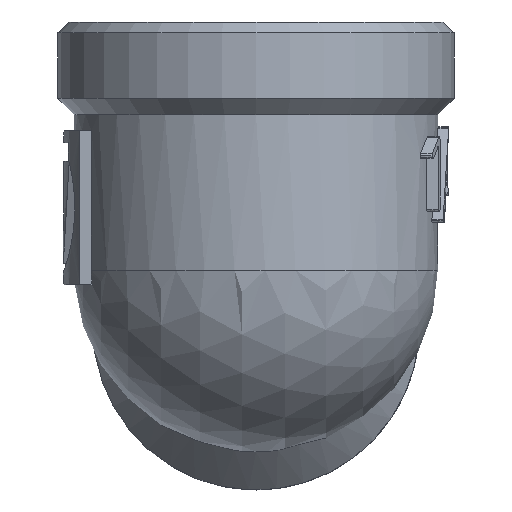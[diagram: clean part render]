
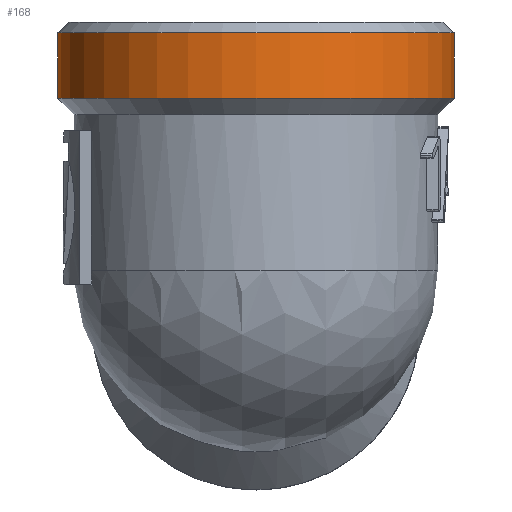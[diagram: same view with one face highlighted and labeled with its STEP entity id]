
A CAD part, front view. The second image highlights one B-rep face of the part: STEP entity #168.
In plain terms, the highlighted cylindrical face has radius 9.1 mm (diameter 18.2 mm), a full revolution.
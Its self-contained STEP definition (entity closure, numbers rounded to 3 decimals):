
#168=ADVANCED_FACE('',(#362,#364),#366,.T.);
#362=FACE_OUTER_BOUND('',#363,.T.);
#363=EDGE_LOOP('',(#1292));
#364=FACE_OUTER_BOUND('',#365,.T.);
#365=EDGE_LOOP('',(#1293));
#366=CYLINDRICAL_SURFACE('',#367,9.1);
#367=AXIS2_PLACEMENT_3D('',#368,#369,#370);
#368=CARTESIAN_POINT('',(0.,0.,10.5));
#369=DIRECTION('',(0.,0.,1.));
#370=DIRECTION('',(0.,1.,0.));
#1292=ORIENTED_EDGE('',*,*,#2123,.F.);
#1293=ORIENTED_EDGE('',*,*,#2125,.F.);
#2123=EDGE_CURVE('',#2482,#2482,#2483,.T.);
#2125=EDGE_CURVE('',#2486,#2486,#2487,.F.);
#2482=VERTEX_POINT('',#3244);
#2483=CIRCLE('',#3245,9.1);
#2486=VERTEX_POINT('',#3254);
#2487=CIRCLE('',#3255,9.1);
#3244=CARTESIAN_POINT('',(0.,9.1,13.5));
#3245=AXIS2_PLACEMENT_3D('',#3246,#3247,#3248);
#3246=CARTESIAN_POINT('',(0.,0.,13.5));
#3247=DIRECTION('',(0.,0.,1.));
#3248=DIRECTION('',(0.,1.,0.));
#3254=CARTESIAN_POINT('',(0.,9.1,10.5));
#3255=AXIS2_PLACEMENT_3D('',#3256,#3257,#3258);
#3256=CARTESIAN_POINT('',(0.,0.,10.5));
#3257=DIRECTION('',(0.,0.,1.));
#3258=DIRECTION('',(0.,1.,0.));
